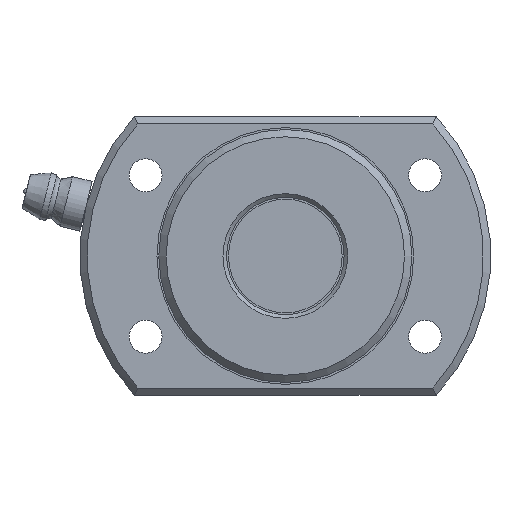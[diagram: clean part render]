
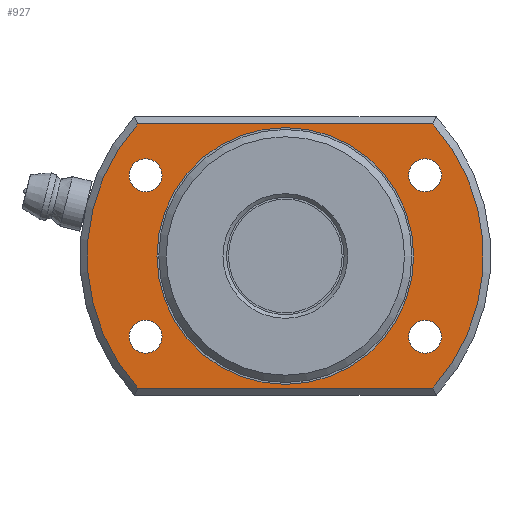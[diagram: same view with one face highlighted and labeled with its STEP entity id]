
A CAD part, left-side view. The second image highlights one B-rep face of the part: STEP entity #927.
In plain terms, the highlighted planar face has unit normal (-1, 0, 0).
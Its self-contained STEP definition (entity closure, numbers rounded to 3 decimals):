
#734=CARTESIAN_POINT('',(278.626,20.125,-18.));
#735=VERTEX_POINT('',#734);
#736=CARTESIAN_POINT('',(278.626,20.125,18.));
#737=VERTEX_POINT('',#736);
#738=CARTESIAN_POINT('',(278.626,0.0,0.0));
#739=DIRECTION('',(1.0,0.0,0.0));
#740=DIRECTION('',(0.0,1.0,0.0));
#741=AXIS2_PLACEMENT_3D('',#738,#739,#740);
#742=CIRCLE('',#741,27.0);
#743=EDGE_CURVE('',#735,#737,#742,.T.);
#776=CARTESIAN_POINT('',(278.626,-20.125,-18.0));
#777=VERTEX_POINT('',#776);
#785=CARTESIAN_POINT('',(278.626,-20.125,-18.0));
#786=DIRECTION('',(0.0,1.0,0.0));
#787=VECTOR('',#786,40.249);
#788=LINE('',#785,#787);
#789=EDGE_CURVE('',#777,#735,#788,.T.);
#800=CARTESIAN_POINT('',(278.626,-20.125,18.));
#801=VERTEX_POINT('',#800);
#802=CARTESIAN_POINT('',(278.626,0.0,0.0));
#803=DIRECTION('',(1.0,0.0,0.0));
#804=DIRECTION('',(0.0,-1.0,0.0));
#805=AXIS2_PLACEMENT_3D('',#802,#803,#804);
#806=CIRCLE('',#805,27.0);
#807=EDGE_CURVE('',#801,#777,#806,.T.);
#834=CARTESIAN_POINT('',(278.626,20.125,18.));
#835=DIRECTION('',(0.0,-1.0,0.0));
#836=VECTOR('',#835,40.249);
#837=LINE('',#834,#836);
#838=EDGE_CURVE('',#737,#801,#837,.T.);
#861=CARTESIAN_POINT('',(278.626,22.75,0.0));
#862=DIRECTION('',(-1.0,0.0,0.0));
#863=DIRECTION('',(0.0,0.0,1.0));
#864=AXIS2_PLACEMENT_3D('',#861,#862,#863);
#865=PLANE('',#864);
#866=ORIENTED_EDGE('',*,*,#743,.F.);
#867=ORIENTED_EDGE('',*,*,#789,.F.);
#868=ORIENTED_EDGE('',*,*,#807,.F.);
#869=ORIENTED_EDGE('',*,*,#838,.F.);
#870=EDGE_LOOP('',(#866,#867,#868,#869));
#871=FACE_OUTER_BOUND('',#870,.T.);
#872=CARTESIAN_POINT('',(278.626,17.5,0.0));
#873=VERTEX_POINT('',#872);
#874=CARTESIAN_POINT('',(278.626,0.0,0.0));
#875=DIRECTION('',(1.0,0.0,0.0));
#876=DIRECTION('',(0.0,1.0,0.0));
#877=AXIS2_PLACEMENT_3D('',#874,#875,#876);
#878=CIRCLE('',#877,17.5);
#879=EDGE_CURVE('',#873,#873,#878,.T.);
#880=ORIENTED_EDGE('',*,*,#879,.T.);
#881=EDGE_LOOP('',(#880));
#882=FACE_BOUND('',#881,.T.);
#883=CARTESIAN_POINT('',(278.626,-19.053,13.25));
#884=VERTEX_POINT('',#883);
#885=CARTESIAN_POINT('',(278.626,-19.053,11.));
#886=DIRECTION('',(1.0,0.0,0.0));
#887=DIRECTION('',(0.0,0.0,1.0));
#888=AXIS2_PLACEMENT_3D('',#885,#886,#887);
#889=CIRCLE('',#888,2.25);
#890=EDGE_CURVE('',#884,#884,#889,.T.);
#891=ORIENTED_EDGE('',*,*,#890,.T.);
#892=EDGE_LOOP('',(#891));
#893=FACE_BOUND('',#892,.T.);
#894=CARTESIAN_POINT('',(278.626,19.053,-8.75));
#895=VERTEX_POINT('',#894);
#896=CARTESIAN_POINT('',(278.626,19.053,-11.));
#897=DIRECTION('',(1.0,0.0,0.0));
#898=DIRECTION('',(0.0,0.0,1.0));
#899=AXIS2_PLACEMENT_3D('',#896,#897,#898);
#900=CIRCLE('',#899,2.25);
#901=EDGE_CURVE('',#895,#895,#900,.T.);
#902=ORIENTED_EDGE('',*,*,#901,.T.);
#903=EDGE_LOOP('',(#902));
#904=FACE_BOUND('',#903,.T.);
#905=CARTESIAN_POINT('',(278.626,19.053,13.25));
#906=VERTEX_POINT('',#905);
#907=CARTESIAN_POINT('',(278.626,19.053,11.));
#908=DIRECTION('',(1.0,0.0,0.0));
#909=DIRECTION('',(0.0,0.0,1.0));
#910=AXIS2_PLACEMENT_3D('',#907,#908,#909);
#911=CIRCLE('',#910,2.25);
#912=EDGE_CURVE('',#906,#906,#911,.T.);
#913=ORIENTED_EDGE('',*,*,#912,.T.);
#914=EDGE_LOOP('',(#913));
#915=FACE_BOUND('',#914,.T.);
#916=CARTESIAN_POINT('',(278.626,-19.053,-8.75));
#917=VERTEX_POINT('',#916);
#918=CARTESIAN_POINT('',(278.626,-19.053,-11.));
#919=DIRECTION('',(1.0,0.0,0.0));
#920=DIRECTION('',(0.0,0.0,1.0));
#921=AXIS2_PLACEMENT_3D('',#918,#919,#920);
#922=CIRCLE('',#921,2.25);
#923=EDGE_CURVE('',#917,#917,#922,.T.);
#924=ORIENTED_EDGE('',*,*,#923,.T.);
#925=EDGE_LOOP('',(#924));
#926=FACE_BOUND('',#925,.T.);
#927=ADVANCED_FACE('',(#871,#882,#893,#904,#915,#926),#865,.T.);
